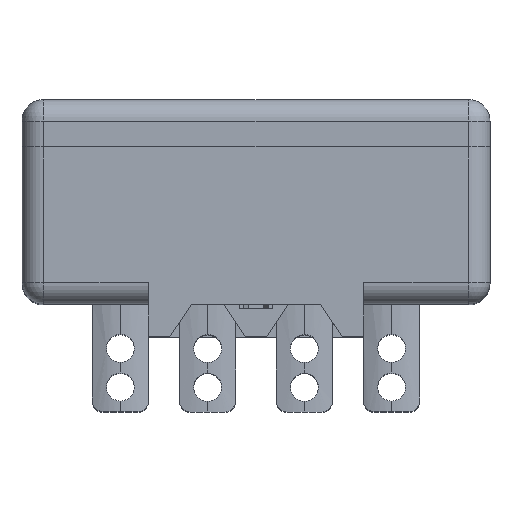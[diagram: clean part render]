
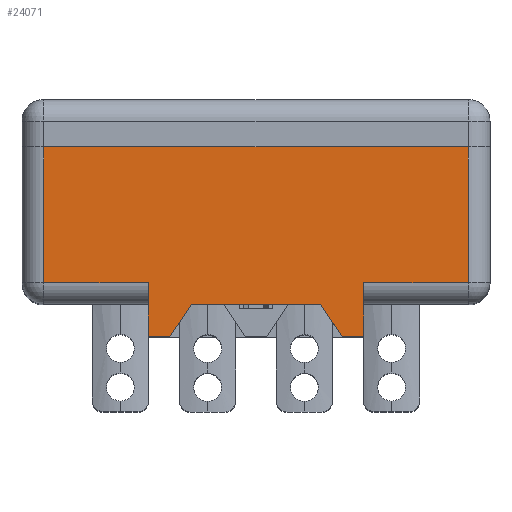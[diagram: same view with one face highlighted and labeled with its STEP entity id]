
A CAD part, top view. The second image highlights one B-rep face of the part: STEP entity #24071.
In plain terms, the highlighted planar face has unit normal (0, 0, 1).
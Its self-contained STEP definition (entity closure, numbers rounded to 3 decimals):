
#1891 = LINE ( 'NONE', #1892, #2304 ) ;
#1892 = CARTESIAN_POINT ( 'NONE',  ( 1.5, -7.3, 12.6 ) ) ;
#1893 = DIRECTION ( 'NONE',  ( -1., 0., 0. ) ) ;
#2304 = VECTOR ( 'NONE', #1893, 1000. ) ;
#3645 = PLANE ( 'NONE',  #18583 ) ;
#3646 = CARTESIAN_POINT ( 'NONE',  ( -10.875, -8.8, 12.6 ) ) ;
#3647 = DIRECTION ( 'NONE',  ( 0., 0., -1. ) ) ;
#3648 = DIRECTION ( 'NONE',  ( -1., 0., 0. ) ) ;
#4201 = VECTOR ( 'NONE', #5755, 1000. ) ;
#4394 = VECTOR ( 'NONE', #5738, 1000. ) ;
#4402 = VECTOR ( 'NONE', #5761, 1000. ) ;
#4409 = VECTOR ( 'NONE', #5744, 1000. ) ;
#4414 = VECTOR ( 'NONE', #5711, 1000. ) ;
#4418 = VECTOR ( 'NONE', #5728, 1000. ) ;
#4421 = VECTOR ( 'NONE', #5733, 1000. ) ;
#4438 = VECTOR ( 'NONE', #5749, 1000. ) ;
#5708 = LINE ( 'NONE', #5709, #4414 ) ;
#5709 = CARTESIAN_POINT ( 'NONE',  ( -10.875, 0., 12.6 ) ) ;
#5711 = DIRECTION ( 'NONE',  ( -1., 0., 0. ) ) ;
#5724 = LINE ( 'NONE', #5726, #4418 ) ;
#5726 = CARTESIAN_POINT ( 'NONE',  ( -5., -8.8, 12.6 ) ) ;
#5728 = DIRECTION ( 'NONE',  ( 0., 1., 0. ) ) ;
#5730 = LINE ( 'NONE', #5732, #4421 ) ;
#5732 = CARTESIAN_POINT ( 'NONE',  ( -10.875, -6.3, 12.6 ) ) ;
#5733 = DIRECTION ( 'NONE',  ( 1., 0., 0. ) ) ;
#5734 = LINE ( 'NONE', #5736, #4394 ) ;
#5736 = CARTESIAN_POINT ( 'NONE',  ( -3., -7.3, 12.6 ) ) ;
#5738 = DIRECTION ( 'NONE',  ( -0.555, -0.832, 0. ) ) ;
#5740 = LINE ( 'NONE', #5742, #4409 ) ;
#5742 = CARTESIAN_POINT ( 'NONE',  ( 4., -8.8, 12.6 ) ) ;
#5744 = DIRECTION ( 'NONE',  ( -0.555, 0.832, 0. ) ) ;
#5746 = LINE ( 'NONE', #5747, #4438 ) ;
#5747 = CARTESIAN_POINT ( 'NONE',  ( -10.875, -6.3, 12.6 ) ) ;
#5749 = DIRECTION ( 'NONE',  ( 1., 0., 0. ) ) ;
#5751 = LINE ( 'NONE', #5753, #4201 ) ;
#5753 = CARTESIAN_POINT ( 'NONE',  ( 9.875, -8.8, 12.6 ) ) ;
#5755 = DIRECTION ( 'NONE',  ( 0., 1., 0. ) ) ;
#5757 = LINE ( 'NONE', #5759, #4402 ) ;
#5759 = CARTESIAN_POINT ( 'NONE',  ( -9.875, -8.8, 12.6 ) ) ;
#5761 = DIRECTION ( 'NONE',  ( 0., -1., 0. ) ) ;
#6249 = VECTOR ( 'NONE', #14478, 1000. ) ;
#6626 = VECTOR ( 'NONE', #25483, 1000. ) ;
#6737 = VECTOR ( 'NONE', #14382, 1000. ) ;
#8939 = EDGE_LOOP ( 'NONE', ( #12708, #12706, #12707, #12705, #12704, #12703, #12701, #12700, #12702, #12698, #12699, #12697 ) ) ;
#9925 = CARTESIAN_POINT ( 'NONE',  ( -9.875, 0., 12.6 ) ) ;
#9926 = CARTESIAN_POINT ( 'NONE',  ( 9.875, 0., 12.6 ) ) ;
#9968 = CARTESIAN_POINT ( 'NONE',  ( -9.875, -6.3, 12.6 ) ) ;
#9969 = CARTESIAN_POINT ( 'NONE',  ( -5., -6.3, 12.6 ) ) ;
#9976 = CARTESIAN_POINT ( 'NONE',  ( 9.875, -6.3, 12.6 ) ) ;
#10481 = CARTESIAN_POINT ( 'NONE',  ( 5., -6.3, 12.6 ) ) ;
#10536 = CARTESIAN_POINT ( 'NONE',  ( -4., -8.8, 12.6 ) ) ;
#10537 = CARTESIAN_POINT ( 'NONE',  ( -5., -8.8, 12.6 ) ) ;
#10538 = CARTESIAN_POINT ( 'NONE',  ( 4., -8.8, 12.6 ) ) ;
#10545 = CARTESIAN_POINT ( 'NONE',  ( 5., -8.8, 12.6 ) ) ;
#12697 = ORIENTED_EDGE ( 'NONE', *, *, #20539, .T. ) ;
#12698 = ORIENTED_EDGE ( 'NONE', *, *, #20538, .T. ) ;
#12699 = ORIENTED_EDGE ( 'NONE', *, *, #20530, .T. ) ;
#12700 = ORIENTED_EDGE ( 'NONE', *, *, #23618, .F. ) ;
#12701 = ORIENTED_EDGE ( 'NONE', *, *, #23671, .F. ) ;
#12702 = ORIENTED_EDGE ( 'NONE', *, *, #20537, .T. ) ;
#12703 = ORIENTED_EDGE ( 'NONE', *, *, #20536, .F. ) ;
#12704 = ORIENTED_EDGE ( 'NONE', *, *, #22341, .F. ) ;
#12705 = ORIENTED_EDGE ( 'NONE', *, *, #20535, .F. ) ;
#12706 = ORIENTED_EDGE ( 'NONE', *, *, #20533, .F. ) ;
#12707 = ORIENTED_EDGE ( 'NONE', *, *, #23639, .F. ) ;
#12708 = ORIENTED_EDGE ( 'NONE', *, *, #20534, .T. ) ;
#13337 = VERTEX_POINT ( 'NONE', #17103 ) ;
#13339 = VERTEX_POINT ( 'NONE', #17104 ) ;
#14380 = LINE ( 'NONE', #14381, #6737 ) ;
#14381 = CARTESIAN_POINT ( 'NONE',  ( -10.875, -8.8, 12.6 ) ) ;
#14382 = DIRECTION ( 'NONE',  ( -1., 0., 0. ) ) ;
#14476 = LINE ( 'NONE', #14477, #6249 ) ;
#14477 = CARTESIAN_POINT ( 'NONE',  ( -10.875, -8.8, 12.6 ) ) ;
#14478 = DIRECTION ( 'NONE',  ( -1., 0., 0. ) ) ;
#17103 = CARTESIAN_POINT ( 'NONE',  ( -3., -7.3, 12.6 ) ) ;
#17104 = CARTESIAN_POINT ( 'NONE',  ( 3., -7.3, 12.6 ) ) ;
#18474 = FACE_OUTER_BOUND ( 'NONE', #8939, .T. ) ;
#18583 = AXIS2_PLACEMENT_3D ( 'NONE', #3646, #3647, #3648 ) ;
#18797 = VERTEX_POINT ( 'NONE', #9925 ) ;
#18798 = VERTEX_POINT ( 'NONE', #9926 ) ;
#18840 = VERTEX_POINT ( 'NONE', #9968 ) ;
#18841 = VERTEX_POINT ( 'NONE', #9969 ) ;
#18848 = VERTEX_POINT ( 'NONE', #9976 ) ;
#19353 = VERTEX_POINT ( 'NONE', #10481 ) ;
#19408 = VERTEX_POINT ( 'NONE', #10536 ) ;
#19409 = VERTEX_POINT ( 'NONE', #10537 ) ;
#19410 = VERTEX_POINT ( 'NONE', #10538 ) ;
#19417 = VERTEX_POINT ( 'NONE', #10545 ) ;
#20530 = EDGE_CURVE ( 'NONE', #18798, #18797, #5708, .T. ) ;
#20533 = EDGE_CURVE ( 'NONE', #19409, #18841, #5724, .T. ) ;
#20534 = EDGE_CURVE ( 'NONE', #18840, #18841, #5730, .T. ) ;
#20535 = EDGE_CURVE ( 'NONE', #13337, #19408, #5734, .T. ) ;
#20536 = EDGE_CURVE ( 'NONE', #19410, #13339, #5740, .T. ) ;
#20537 = EDGE_CURVE ( 'NONE', #19353, #18848, #5746, .T. ) ;
#20538 = EDGE_CURVE ( 'NONE', #18848, #18798, #5751, .T. ) ;
#20539 = EDGE_CURVE ( 'NONE', #18797, #18840, #5757, .T. ) ;
#22341 = EDGE_CURVE ( 'NONE', #13339, #13337, #1891, .T. ) ;
#23618 = EDGE_CURVE ( 'NONE', #19353, #19417, #25481, .T. ) ;
#23639 = EDGE_CURVE ( 'NONE', #19408, #19409, #14380, .T. ) ;
#23671 = EDGE_CURVE ( 'NONE', #19417, #19410, #14476, .T. ) ;
#24071 = ADVANCED_FACE ( 'NONE', ( #18474 ), #3645, .F. ) ;
#25481 = LINE ( 'NONE', #25482, #6626 ) ;
#25482 = CARTESIAN_POINT ( 'NONE',  ( 5., -8.8, 12.6 ) ) ;
#25483 = DIRECTION ( 'NONE',  ( 0., -1., 0. ) ) ;
